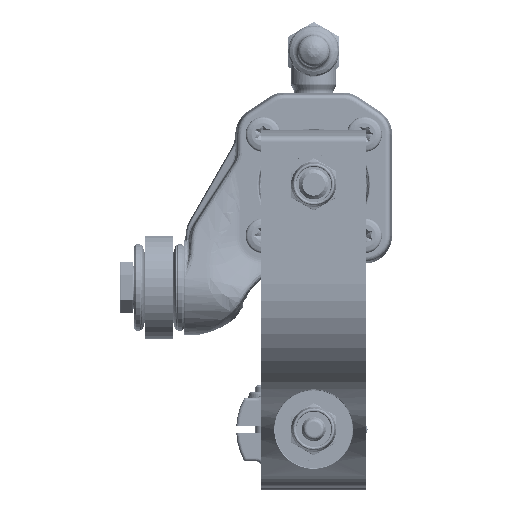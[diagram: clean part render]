
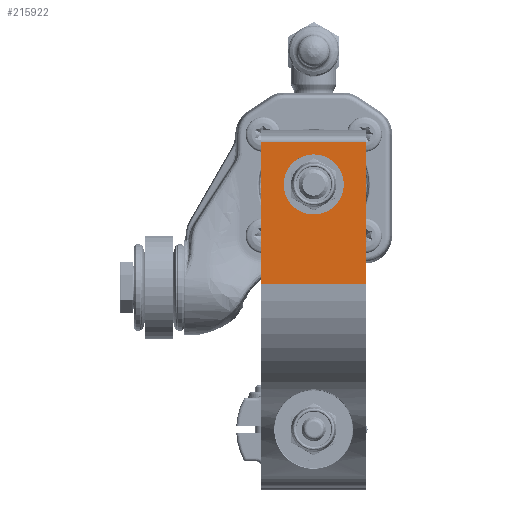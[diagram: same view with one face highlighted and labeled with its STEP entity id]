
A CAD part, top view. The second image highlights one B-rep face of the part: STEP entity #215922.
In plain terms, the highlighted planar face has unit normal (0, 0, 1) as drawn and (-1, 0, 0) by its records, which use the part's own axes.
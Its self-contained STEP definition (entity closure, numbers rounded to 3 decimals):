
#26810=FACE_BOUND('',#85092,.T.);
#28047=PLANE('',#228940);
#33993=LINE('',#275206,#53462);
#33998=LINE('',#275233,#53467);
#34022=LINE('',#275407,#53491);
#34025=LINE('',#275415,#53494);
#53462=VECTOR('',#237900,10.);
#53467=VECTOR('',#237925,10.);
#53491=VECTOR('',#238049,10.);
#53494=VECTOR('',#238062,10.);
#73221=FACE_OUTER_BOUND('',#85091,.T.);
#85091=EDGE_LOOP('',(#152843,#152844,#152845,#152846));
#85092=EDGE_LOOP('',(#152847));
#98226=CIRCLE('',#228930,9.5);
#99998=VERTEX_POINT('',#275199);
#100001=VERTEX_POINT('',#275204);
#100013=VERTEX_POINT('',#275231);
#100042=VERTEX_POINT('',#275395);
#100045=VERTEX_POINT('',#275406);
#120993=EDGE_CURVE('',#100001,#99998,#33993,.T.);
#121007=EDGE_CURVE('',#100001,#100013,#33998,.T.);
#121055=EDGE_CURVE('',#100042,#100042,#98226,.T.);
#121060=EDGE_CURVE('',#100045,#99998,#34022,.T.);
#121065=EDGE_CURVE('',#100013,#100045,#34025,.T.);
#152843=ORIENTED_EDGE('',*,*,#120993,.F.);
#152844=ORIENTED_EDGE('',*,*,#121007,.T.);
#152845=ORIENTED_EDGE('',*,*,#121065,.T.);
#152846=ORIENTED_EDGE('',*,*,#121060,.T.);
#152847=ORIENTED_EDGE('',*,*,#121055,.T.);
#215922=ADVANCED_FACE('',(#73221,#26810),#28047,.T.);
#228930=AXIS2_PLACEMENT_3D('',#275396,#238035,#238036);
#228940=AXIS2_PLACEMENT_3D('',#275414,#238060,#238061);
#237900=DIRECTION('',(0.,0.,-1.));
#237925=DIRECTION('',(0.,1.,0.));
#238035=DIRECTION('center_axis',(1.,0.,0.));
#238036=DIRECTION('ref_axis',(0.,0.,-1.));
#238049=DIRECTION('',(0.,-1.,0.));
#238060=DIRECTION('center_axis',(-1.,0.,0.));
#238061=DIRECTION('ref_axis',(0.,0.,1.));
#238062=DIRECTION('',(0.,0.,-1.));
#275199=CARTESIAN_POINT('',(-99.,-109.027,-16.5));
#275204=CARTESIAN_POINT('',(-99.,-109.027,16.5));
#275206=CARTESIAN_POINT('',(-99.,-109.027,0.));
#275231=CARTESIAN_POINT('',(-99.,-64.173,16.5));
#275233=CARTESIAN_POINT('',(-99.,-110.541,16.5));
#275395=CARTESIAN_POINT('',(-99.,-95.7,9.5));
#275396=CARTESIAN_POINT('Origin',(-99.,-95.7,0.));
#275406=CARTESIAN_POINT('',(-99.,-64.173,-16.5));
#275407=CARTESIAN_POINT('',(-99.,-110.541,-16.5));
#275414=CARTESIAN_POINT('Origin',(-99.,-110.541,0.));
#275415=CARTESIAN_POINT('',(-99.,-64.173,0.));
